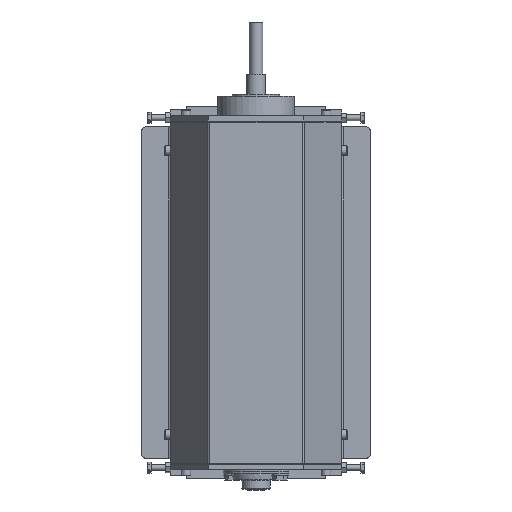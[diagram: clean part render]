
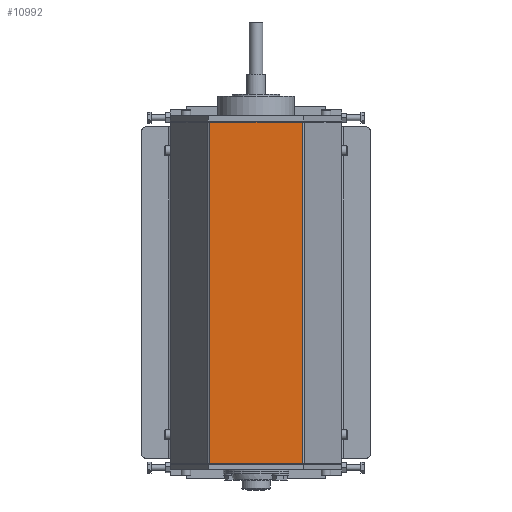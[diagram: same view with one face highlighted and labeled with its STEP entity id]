
A CAD part, front view. The second image highlights one B-rep face of the part: STEP entity #10992.
In plain terms, the highlighted planar face has unit normal (0, -1, 0).
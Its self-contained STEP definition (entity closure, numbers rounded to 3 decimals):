
#549 = EDGE_CURVE ( 'NONE', #3363, #3433, #12525, .T. ) ;
#551 = EDGE_CURVE ( 'NONE', #2965, #3483, #12529, .T. ) ;
#1133 = LINE ( 'NONE', #10314, #1158 ) ;
#1158 = VECTOR ( 'NONE', #10309, 1000. ) ;
#2965 = VERTEX_POINT ( 'NONE', #5875 ) ;
#3363 = VERTEX_POINT ( 'NONE', #11049 ) ;
#3433 = VERTEX_POINT ( 'NONE', #26162 ) ;
#3483 = VERTEX_POINT ( 'NONE', #11247 ) ;
#5140 = ORIENTED_EDGE ( 'NONE', *, *, #10607, .F. ) ;
#5142 = ORIENTED_EDGE ( 'NONE', *, *, #17414, .T. ) ;
#5199 = ORIENTED_EDGE ( 'NONE', *, *, #549, .T. ) ;
#5280 = ORIENTED_EDGE ( 'NONE', *, *, #551, .F. ) ;
#5875 = CARTESIAN_POINT ( 'NONE',  ( 48.268, 0., 358. ) ) ;
#9613 = EDGE_LOOP ( 'NONE', ( #5142, #5280, #5140, #5199 ) ) ;
#10309 = DIRECTION ( 'NONE',  ( 1., 0., 0. ) ) ;
#10314 = CARTESIAN_POINT ( 'NONE',  ( -50., 0., 0. ) ) ;
#10607 = EDGE_CURVE ( 'NONE', #3363, #2965, #16639, .T. ) ;
#10992 = ADVANCED_FACE ( 'NONE', ( #17120 ), #14805, .F. ) ;
#11049 = CARTESIAN_POINT ( 'NONE',  ( -48.268, 0., 358. ) ) ;
#11247 = CARTESIAN_POINT ( 'NONE',  ( 48.268, 0., 0. ) ) ;
#12525 = LINE ( 'NONE', #21360, #12527 ) ;
#12527 = VECTOR ( 'NONE', #21230, 1000. ) ;
#12529 = LINE ( 'NONE', #21194, #12531 ) ;
#12531 = VECTOR ( 'NONE', #21259, 1000. ) ;
#14805 = PLANE ( 'NONE',  #22772 ) ;
#14806 = CARTESIAN_POINT ( 'NONE',  ( -50., 0., 358. ) ) ;
#14811 = DIRECTION ( 'NONE',  ( 0., 1., 0. ) ) ;
#14812 = DIRECTION ( 'NONE',  ( 0., 0., 1. ) ) ;
#16639 = LINE ( 'NONE', #22199, #16643 ) ;
#16643 = VECTOR ( 'NONE', #22197, 1000. ) ;
#17120 = FACE_OUTER_BOUND ( 'NONE', #9613, .T. ) ;
#17414 = EDGE_CURVE ( 'NONE', #3433, #3483, #1133, .T. ) ;
#21194 = CARTESIAN_POINT ( 'NONE',  ( 48.268, 0., 358. ) ) ;
#21230 = DIRECTION ( 'NONE',  ( 0., 0., -1. ) ) ;
#21259 = DIRECTION ( 'NONE',  ( 0., 0., -1. ) ) ;
#21360 = CARTESIAN_POINT ( 'NONE',  ( -48.268, 0., 358. ) ) ;
#22197 = DIRECTION ( 'NONE',  ( 1., 0., 0. ) ) ;
#22199 = CARTESIAN_POINT ( 'NONE',  ( -50., 0., 358. ) ) ;
#22772 = AXIS2_PLACEMENT_3D ( 'NONE', #14806, #14811, #14812 ) ;
#26162 = CARTESIAN_POINT ( 'NONE',  ( -48.268, 0., 0. ) ) ;
